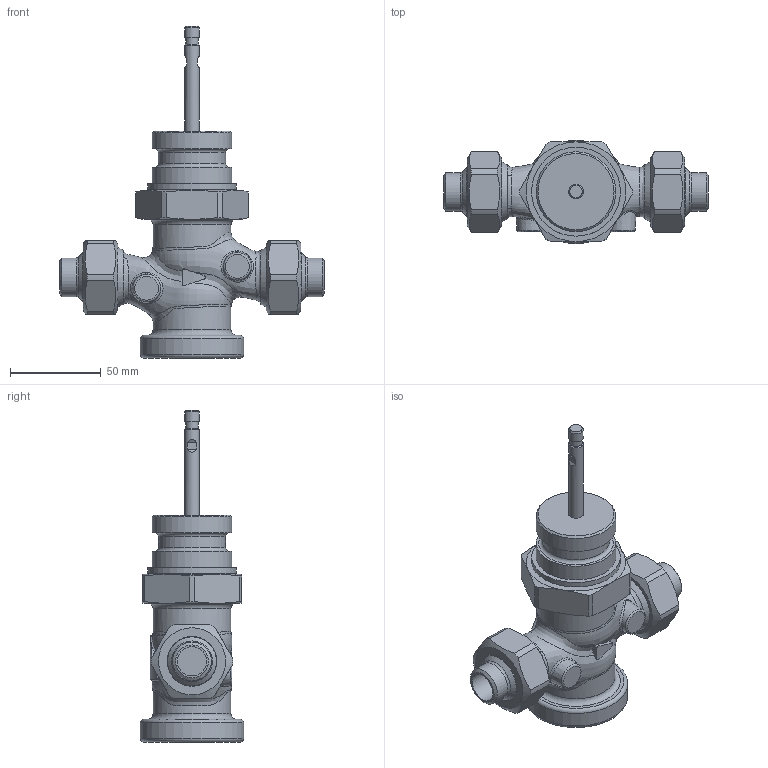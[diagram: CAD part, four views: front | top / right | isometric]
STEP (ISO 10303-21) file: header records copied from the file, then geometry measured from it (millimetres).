
FILE_DESCRIPTION(/* description */ (''),/* implementation_level */ '2;1');
FILE_NAME(/* name */ 'rv122_L_dn15_W.stp',/* time_stamp */ '2025-07-08T09:57:57+02:00',/* author */ ('Jan Novák'),/* organization */ ('LDM'),/* preprocessor_version */ 'ST-DEVELOPER v18.102',/* originating_system */ 'SIEMENS PLM Software NX2206.3001',/* authorisation */ '');
FILE_SCHEMA (('AUTOMOTIVE_DESIGN { 1 0 10303 214 3 1 1 1 }'));
Length unit declared in the file: millimetre
Products named in the file (1): rv_0763-766_rv122_L_dn15_objects
Bounding box: 146 x 57 x 183.1 mm (x, y, z)
Volume: 306059 mm3; surface area: 55565 mm2
Topology: 7 solids, 7 shells, 185 faces, 424 edges, 271 vertices
Faces by surface type: plane 61, cylinder 55, cone 35, bspline 24, torus 10
Full cylindrical faces by diameter (mm): 7 x1, 8 x2, 16.1 x2, 21 x2, 21.3 x2, 27 x2, 27.5 x2, 30 x4, 30.291 x2, 33.249 x2, 37 x1, 38 x1, 43 x2, 44 x2, 49 x1, 57 x1
Entity records: 10560 total; most frequent: CARTESIAN_POINT 6875, DIRECTION 695, ORIENTED_EDGE 632, AXIS2_PLACEMENT_3D 319, EDGE_CURVE 316, EDGE_LOOP 280, VERTEX_POINT 232, FACE_BOUND 188
